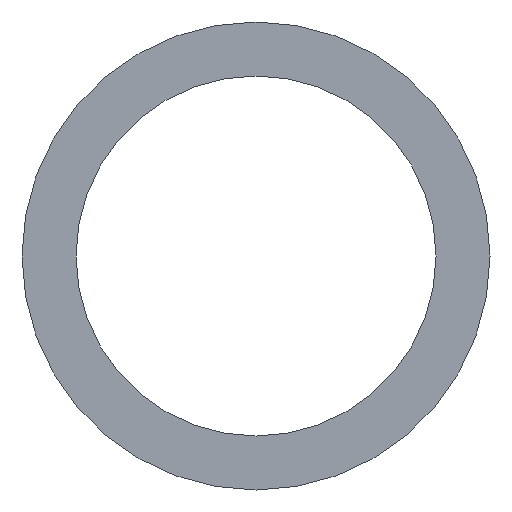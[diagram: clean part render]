
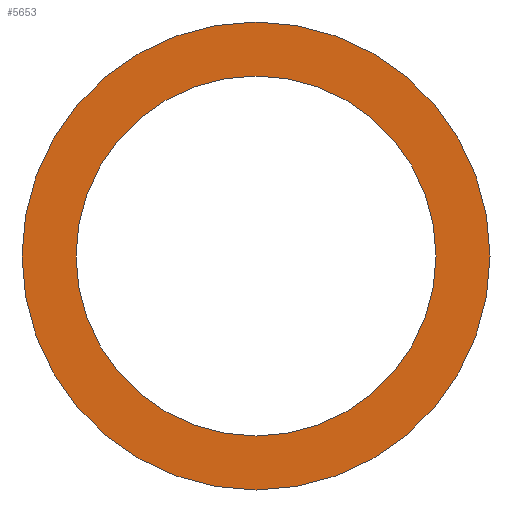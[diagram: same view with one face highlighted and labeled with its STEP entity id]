
A CAD part, front view. The second image highlights one B-rep face of the part: STEP entity #5653.
In plain terms, the highlighted planar face has unit normal (0, -1, 0).
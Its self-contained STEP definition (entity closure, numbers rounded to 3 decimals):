
#167 = AXIS2_PLACEMENT_3D ( 'NONE', #288, #6357, #4851 ) ;
#262 = CARTESIAN_POINT ( 'NONE',  ( 0., -32., 0. ) ) ;
#288 = CARTESIAN_POINT ( 'NONE',  ( 0., -32., 0. ) ) ;
#296 = DIRECTION ( 'NONE',  ( 0., 0., -1. ) ) ;
#391 = DIRECTION ( 'NONE',  ( 0., -1., 0. ) ) ;
#511 = VERTEX_POINT ( 'NONE', #4124 ) ;
#708 = CIRCLE ( 'NONE', #5579, 100. ) ;
#748 = EDGE_CURVE ( 'NONE', #511, #4700, #3948, .T. ) ;
#915 = EDGE_LOOP ( 'NONE', ( #2540, #6261 ) ) ;
#1406 = CIRCLE ( 'NONE', #4671, 130. ) ;
#1743 = EDGE_LOOP ( 'NONE', ( #4692, #3193 ) ) ;
#1775 = VERTEX_POINT ( 'NONE', #3115 ) ;
#1879 = FACE_OUTER_BOUND ( 'NONE', #1743, .T. ) ;
#1887 = DIRECTION ( 'NONE',  ( 0., 0., 1. ) ) ;
#2126 = CIRCLE ( 'NONE', #2389, 130. ) ;
#2389 = AXIS2_PLACEMENT_3D ( 'NONE', #2525, #3063, #4566 ) ;
#2525 = CARTESIAN_POINT ( 'NONE',  ( 0., -32., 0. ) ) ;
#2540 = ORIENTED_EDGE ( 'NONE', *, *, #748, .F. ) ;
#3063 = DIRECTION ( 'NONE',  ( 0., -1., 0. ) ) ;
#3115 = CARTESIAN_POINT ( 'NONE',  ( 0., -32., 130. ) ) ;
#3193 = ORIENTED_EDGE ( 'NONE', *, *, #5134, .T. ) ;
#3480 = VERTEX_POINT ( 'NONE', #3716 ) ;
#3666 = CARTESIAN_POINT ( 'NONE',  ( 0., -32., 100. ) ) ;
#3716 = CARTESIAN_POINT ( 'NONE',  ( 0., -32., -130. ) ) ;
#3736 = AXIS2_PLACEMENT_3D ( 'NONE', #3889, #5427, #1887 ) ;
#3870 = FACE_BOUND ( 'NONE', #915, .T. ) ;
#3889 = CARTESIAN_POINT ( 'NONE',  ( 0., -32., 100. ) ) ;
#3915 = CARTESIAN_POINT ( 'NONE',  ( 0., -32., 0. ) ) ;
#3948 = CIRCLE ( 'NONE', #167, 100. ) ;
#4124 = CARTESIAN_POINT ( 'NONE',  ( 0., -32., -100. ) ) ;
#4566 = DIRECTION ( 'NONE',  ( 0., 0., -1. ) ) ;
#4671 = AXIS2_PLACEMENT_3D ( 'NONE', #3915, #391, #6023 ) ;
#4692 = ORIENTED_EDGE ( 'NONE', *, *, #6015, .T. ) ;
#4700 = VERTEX_POINT ( 'NONE', #3666 ) ;
#4840 = DIRECTION ( 'NONE',  ( 0., -1., 0. ) ) ;
#4851 = DIRECTION ( 'NONE',  ( 0., 0., -1. ) ) ;
#4999 = EDGE_CURVE ( 'NONE', #4700, #511, #708, .T. ) ;
#5134 = EDGE_CURVE ( 'NONE', #1775, #3480, #1406, .T. ) ;
#5427 = DIRECTION ( 'NONE',  ( 0., 1., 0. ) ) ;
#5579 = AXIS2_PLACEMENT_3D ( 'NONE', #262, #4840, #296 ) ;
#5653 = ADVANCED_FACE ( 'NONE', ( #3870, #1879 ), #5929, .F. ) ;
#5929 = PLANE ( 'NONE',  #3736 ) ;
#6015 = EDGE_CURVE ( 'NONE', #3480, #1775, #2126, .T. ) ;
#6023 = DIRECTION ( 'NONE',  ( 0., 0., -1. ) ) ;
#6261 = ORIENTED_EDGE ( 'NONE', *, *, #4999, .F. ) ;
#6357 = DIRECTION ( 'NONE',  ( 0., -1., 0. ) ) ;
